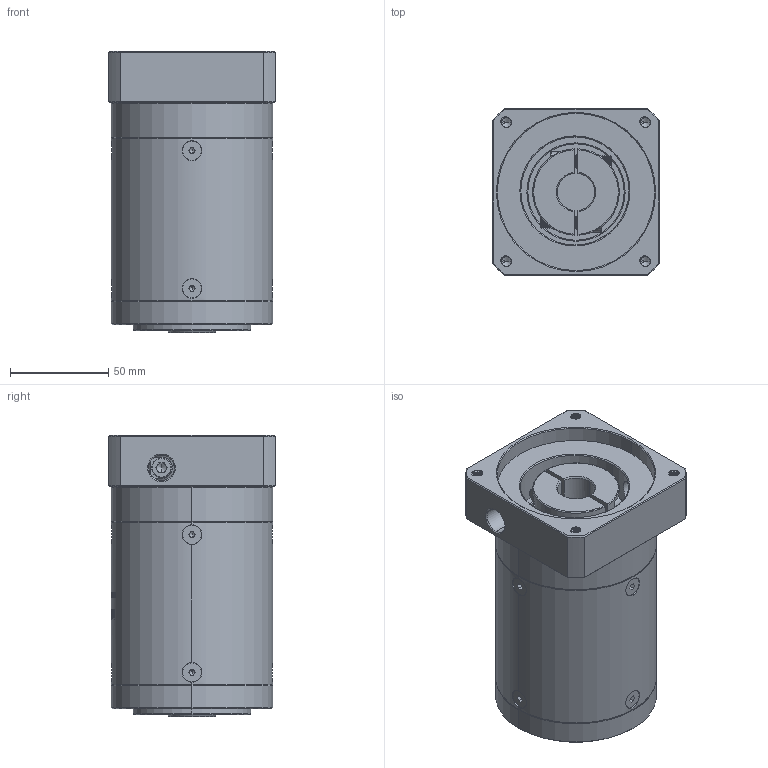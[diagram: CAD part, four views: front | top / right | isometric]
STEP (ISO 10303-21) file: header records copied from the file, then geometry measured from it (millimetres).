
FILE_DESCRIPTION (( 'STEP AP214' ), '1' );
FILE_NAME ('ZE80-K15-L3-19-80-100-M6.step', '2022-05-08T05:59:04', ( '' ), ( 'Microsoft' ), 'SwSTEP 2.0', 'SolidWorks 2016', '' );
FILE_SCHEMA (( 'AUTOMOTIVE_DESIGN' ));
Length unit declared in the file: millimetre
Products named in the file (1): ZE80-K15-L3-19-80-100-M6
Bounding box: 85 x 85 x 143 mm (x, y, z)
Volume: 697539.5 mm3; surface area: 94056.2 mm2
Topology: 13 solids, 13 shells, 2015 faces, 5242 edges, 3315 vertices
Faces by surface type: plane 884, cylinder 473, bspline 322, cone 319, torus 17
Entity records: 112141 total; most frequent: CARTESIAN_POINT 44774, ORIENTED_EDGE 10412, DIRECTION 8031, EDGE_CURVE 5206, VERTEX_POINT 3315, VECTOR 2817, LINE 2817, AXIS2_PLACEMENT_3D 2607
